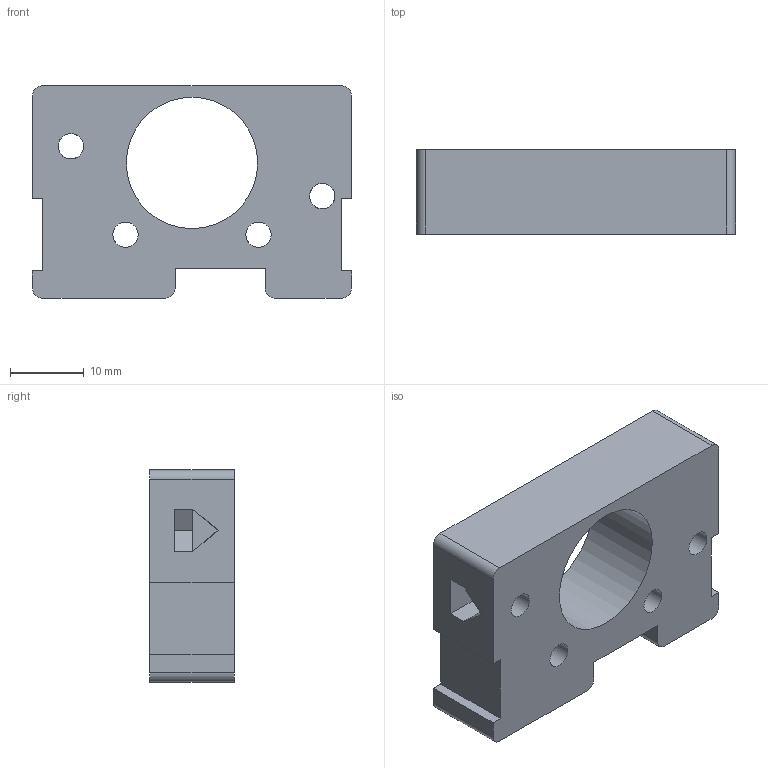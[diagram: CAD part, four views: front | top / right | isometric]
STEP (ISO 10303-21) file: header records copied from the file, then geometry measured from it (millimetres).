
FILE_DESCRIPTION(/* description */ ('Alibre Inc.'),/* implementation_level */ '2;1');
FILE_NAME(/* name */ 'export-5C9ADD26-21F6-4FF5-8C40-1396009CD09C',/* time_stamp */ '2020-06-03T21:14:08-07:00',/* author */ (''),/* organization */ (''),/* preprocessor_version */ 'ST-DEVELOPER v17',/* originating_system */ 'Alibre',/* authorisation */ '');
FILE_SCHEMA (('AUTOMOTIVE_DESIGN'));
Length unit declared in the file: millimetre
Products named in the file (1): CR-10 V6 MOUNT BASE FOR CUSTOMER
Bounding box: 43.18 x 11.43 x 28.7 mm (x, y, z)
Volume: 9501.7 mm3; surface area: 4834.4 mm2
Topology: 1 solids, 1 shells, 56 faces, 157 edges, 102 vertices
Faces by surface type: plane 39, cylinder 15, bspline 2
Full cylindrical faces by diameter (mm): 3.429 x6, 6.858 x2, 17.78 x1
Entity records: 2054 total; most frequent: CARTESIAN_POINT 670, ORIENTED_EDGE 296, DIRECTION 229, EDGE_CURVE 148, VECTOR 103, LINE 103, VERTEX_POINT 102, AXIS2_PLACEMENT_3D 81
